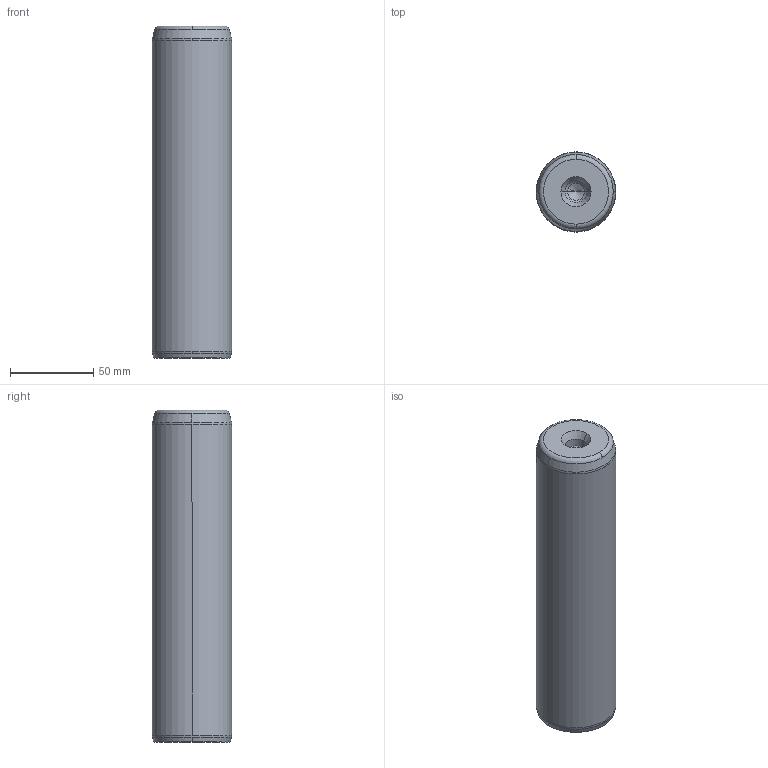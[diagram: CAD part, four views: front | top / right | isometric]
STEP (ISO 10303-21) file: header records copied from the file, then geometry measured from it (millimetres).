
FILE_DESCRIPTION((''),'2;1');
FILE_NAME('P10_048_200.stp','2008-12-23T16:07:56',(''),(''),'Mechanical Desktop 2009','Mechanical Desktop 2009',', , ');
FILE_SCHEMA(('CONFIG_CONTROL_DESIGN'));
Length unit declared in the file: millimetre
Products named in the file (5): Product; ProductAA; blmdl1; ProductA; blmdl1A
Assembly tree (2 placements, depth 3):
  Product
    ProductAA
      blmdl1
  ProductA
  blmdl1A
Bounding box: 48 x 48 x 200 mm (x, y, z)
Volume: 356345 mm3; surface area: 34436.1 mm2
Topology: 1 solids, 1 shells, 26 faces, 66 edges, 41 vertices
Faces by surface type: cone 10, torus 8, cylinder 6, plane 2
Entity records: 1012 total; most frequent: DIRECTION 170, CARTESIAN_POINT 134, ORIENTED_EDGE 128, AXIS2_PLACEMENT_3D 77, EDGE_CURVE 64, CIRCLE 48, VERTEX_POINT 41, EDGE_LOOP 27
